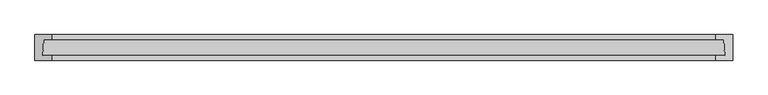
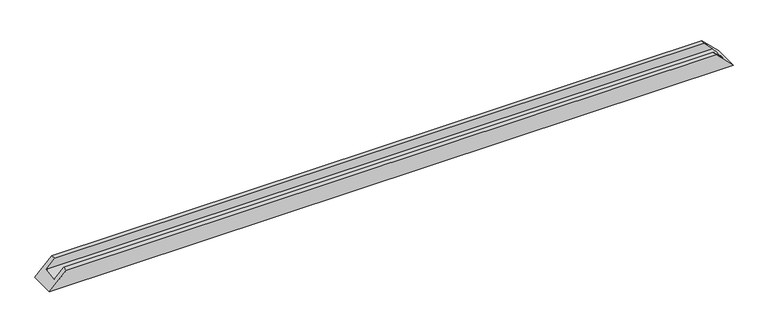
"""IFC4 building model written with IfcOpenShell, lengths in millimetres: proxy geometry, Weiku - Montante - Caixilho duplo 02.2.01.002 : Weiku - Montante - Caixilho duplo 02.2.01.002."""

from ifc_helpers import new_model, si_unit, origin, place, context, project, spatial, faceted_brep, source, transform, mapped, element, save


def generic_models_e005e60f(model_context):
    return source(origin(), model_context, "Body", "Brep", [
        faceted_brep([(-1021.5, -15.0, 26.0), (1021.5, -15.0, 26.0), (995.5, -15.0, 52.0), (-995.5, -15.0, 52.0), (-1023.7229744, -62.0, 23.7770256), (1023.7229744, -62.0, 23.7770256), (-995.5, -62.0, 52.0), (995.5, -62.0, 52.0), (-995.5, -77.0, 52.0), (995.5, -77.0, 52.0), (1047.5, -77.0, 0.0), (-1047.5, -77.0, 0.0), (-1047.5, 0.0, 0.0), (1047.5, 0.0, 0.0), (-995.5, 0.0, 52.0), (995.5, 0.0, 52.0)], [[[0, 1, 2, 3]], [[4, 5, 1, 0]], [[6, 7, 5, 4]], [[8, 9, 7, 6]], [[10, 9, 8, 11]], [[11, 12, 13, 10]], [[12, 14, 15, 13]], [[3, 2, 15, 14]], [[3, 14, 12, 11, 8, 6, 4, 0]], [[1, 5, 7, 9, 10, 13, 15, 2]]]),
    ])


if __name__ == "__main__":
    model = new_model("IFC4")
    model_context = context("Model", 3, world=origin())
    ifc_project = project(units=[si_unit("LENGTHUNIT", "METRE", prefix="MILLI")], contexts=[model_context])
    site = spatial("IfcSite", under=ifc_project)
    building = spatial("IfcBuilding", under=site)
    placement = place(None, origin())
    generic_models_shape = generic_models_e005e60f(model_context)
    element("IfcBuildingElementProxy", 1, Name="Weiku - Montante - Caixilho duplo 02.2.01.002 : Weiku - Montante - Caixilho duplo 02.2.01.002", ObjectType="Weiku - Montante - Caixilho duplo 02.2.01.002 : Weiku - Montante - Caixilho duplo 02.2.01.002", at=placement, inside=building, context=model_context, shape_type="MappedRepresentation", body=[
        mapped(generic_models_shape, transform((0.0, 0.0, 0.0), x_axis=(1.0, 0.0, 0.0), y_axis=(0.0, 1.0, 0.0), z_axis=(0.0, 0.0, 1.0))),
    ])
    save(model, "model.ifc")
